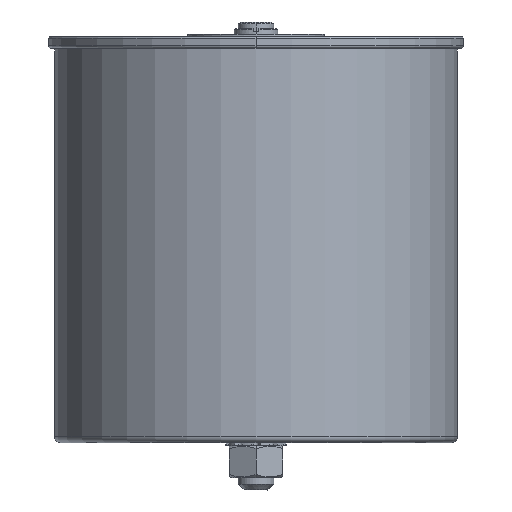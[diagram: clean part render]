
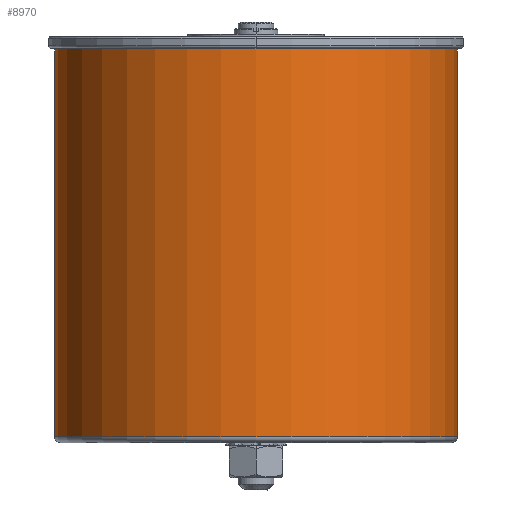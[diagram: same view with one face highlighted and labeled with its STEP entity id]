
A CAD part, left-side view. The second image highlights one B-rep face of the part: STEP entity #8970.
In plain terms, the highlighted cylindrical face has radius 68 mm (diameter 136 mm), a partial arc.
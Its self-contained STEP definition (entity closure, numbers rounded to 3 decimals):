
#41 = CIRCLE ( 'NONE', #8000, 68. ) ;
#102 = CARTESIAN_POINT ( 'NONE',  ( 0., 68., -131. ) ) ;
#273 = CARTESIAN_POINT ( 'NONE',  ( 0., 0., 0.9 ) ) ;
#623 = DIRECTION ( 'NONE',  ( 0., -1., 0. ) ) ;
#787 = AXIS2_PLACEMENT_3D ( 'NONE', #5344, #8718, #11823 ) ;
#830 = CARTESIAN_POINT ( 'NONE',  ( 0., 68., 0.9 ) ) ;
#1524 = VERTEX_POINT ( 'NONE', #102 ) ;
#1680 = EDGE_LOOP ( 'NONE', ( #1794, #9060, #13553, #13319, #12009 ) ) ;
#1794 = ORIENTED_EDGE ( 'NONE', *, *, #5244, .T. ) ;
#1803 = CARTESIAN_POINT ( 'NONE',  ( 0., -68., 0.9 ) ) ;
#1825 = EDGE_CURVE ( 'NONE', #1524, #9190, #12794, .T. ) ;
#2295 = EDGE_CURVE ( 'NONE', #3896, #1524, #4928, .T. ) ;
#2722 = FACE_OUTER_BOUND ( 'NONE', #1680, .T. ) ;
#3009 = CARTESIAN_POINT ( 'NONE',  ( 0., 68., -133. ) ) ;
#3896 = VERTEX_POINT ( 'NONE', #830 ) ;
#4125 = DIRECTION ( 'NONE',  ( 0., 0., -1. ) ) ;
#4643 = DIRECTION ( 'NONE',  ( 0., 1., 0. ) ) ;
#4928 = LINE ( 'NONE', #3009, #5787 ) ;
#5128 = CYLINDRICAL_SURFACE ( 'NONE', #9105, 68. ) ;
#5244 = EDGE_CURVE ( 'NONE', #11242, #3896, #12025, .T. ) ;
#5344 = CARTESIAN_POINT ( 'NONE',  ( 0., 0., -131. ) ) ;
#5687 = DIRECTION ( 'NONE',  ( 0., 0., -1. ) ) ;
#5701 = DIRECTION ( 'NONE',  ( 0., 0., -1. ) ) ;
#5787 = VECTOR ( 'NONE', #4125, 1000. ) ;
#6082 = DIRECTION ( 'NONE',  ( 0., 0., -1. ) ) ;
#7312 = DIRECTION ( 'NONE',  ( 0., 0., -1. ) ) ;
#8000 = AXIS2_PLACEMENT_3D ( 'NONE', #12228, #5701, #4643 ) ;
#8124 = LINE ( 'NONE', #8475, #13246 ) ;
#8475 = CARTESIAN_POINT ( 'NONE',  ( 0., -68., -133. ) ) ;
#8718 = DIRECTION ( 'NONE',  ( 0., 0., 1. ) ) ;
#8970 = ADVANCED_FACE ( 'NONE', ( #2722 ), #5128, .T. ) ;
#9060 = ORIENTED_EDGE ( 'NONE', *, *, #2295, .T. ) ;
#9105 = AXIS2_PLACEMENT_3D ( 'NONE', #13735, #6082, #623 ) ;
#9190 = VERTEX_POINT ( 'NONE', #12365 ) ;
#10423 = CARTESIAN_POINT ( 'NONE',  ( -68., 0., 0.9 ) ) ;
#10788 = DIRECTION ( 'NONE',  ( 0., 1., 0. ) ) ;
#11242 = VERTEX_POINT ( 'NONE', #10423 ) ;
#11404 = EDGE_CURVE ( 'NONE', #13974, #9190, #8124, .T. ) ;
#11445 = AXIS2_PLACEMENT_3D ( 'NONE', #273, #5687, #10788 ) ;
#11823 = DIRECTION ( 'NONE',  ( 0., -1., 0. ) ) ;
#12009 = ORIENTED_EDGE ( 'NONE', *, *, #13702, .T. ) ;
#12025 = CIRCLE ( 'NONE', #11445, 68. ) ;
#12228 = CARTESIAN_POINT ( 'NONE',  ( 0., 0., 0.9 ) ) ;
#12365 = CARTESIAN_POINT ( 'NONE',  ( 0., -68., -131. ) ) ;
#12794 = CIRCLE ( 'NONE', #787, 68. ) ;
#13246 = VECTOR ( 'NONE', #7312, 1000. ) ;
#13319 = ORIENTED_EDGE ( 'NONE', *, *, #11404, .F. ) ;
#13553 = ORIENTED_EDGE ( 'NONE', *, *, #1825, .T. ) ;
#13702 = EDGE_CURVE ( 'NONE', #13974, #11242, #41, .T. ) ;
#13735 = CARTESIAN_POINT ( 'NONE',  ( 0., 0., -133. ) ) ;
#13974 = VERTEX_POINT ( 'NONE', #1803 ) ;
